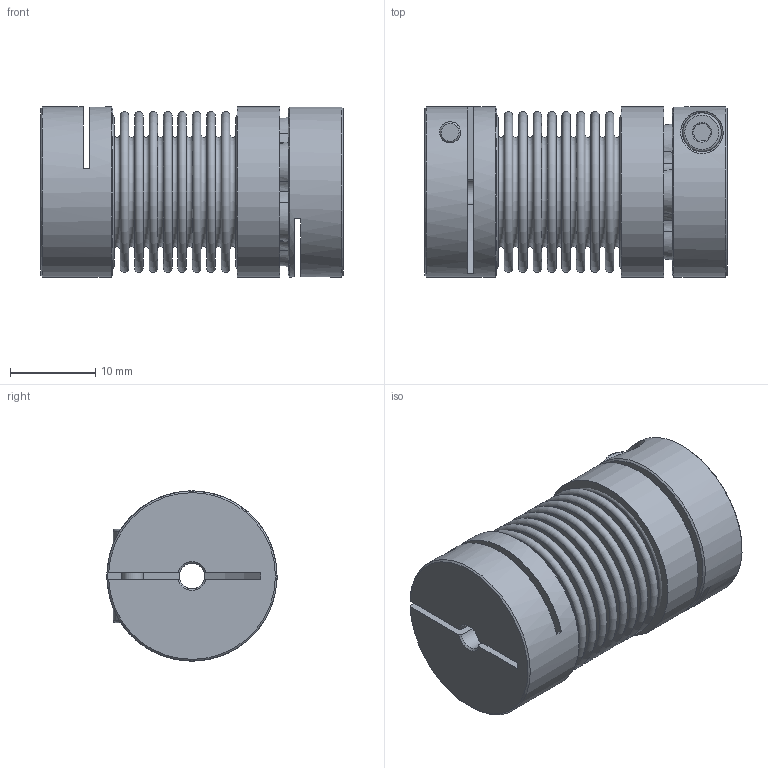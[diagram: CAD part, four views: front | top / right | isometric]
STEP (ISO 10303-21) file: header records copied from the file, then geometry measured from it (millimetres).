
FILE_DESCRIPTION( ( 'KBE1/14 - N7H8 - N14H7 - 98 Sh' ), '1' );
FILE_NAME( 'K:/Konstruktion/Fertigungszeichnungen/Metallbalgkupplung/KB2P/15/KB2P-15-35.stp', '14.12.2015', ( 'KBK-Antriebstechnik' ), ( 'KBK-Antriebstechnik' ), 'PSStep 16.0.42', 'Solid Edge St6', ' ' );
FILE_SCHEMA( ( 'AUTOMOTIVE_DESIGN { 1 0 10303 214 1 1 1 1 }' ) );
Length unit declared in the file: millimetre
Products named in the file (6): Assem1; Stecknabe KB2P-15; KN15_Standard_2; BL15_Standard_0; ISO EN DIN 4762 M2,5x8; Balgaufnahme KB2P-15 für Step
Assembly tree (6 placements, depth 2):
  Assem1
    Stecknabe KB2P-15
    KN15_Standard_2
    BL15_Standard_0
    ISO EN DIN 4762 M2,5x8  x2
    Balgaufnahme KB2P-15 für Step
Bounding box: 35.6 x 20 x 20 mm (x, y, z)
Volume: 6396.2 mm3; surface area: 11310.9 mm2
Topology: 6 solids, 6 shells, 213 faces, 434 edges, 278 vertices
Faces by surface type: plane 83, cone 59, torus 43, cylinder 27, bspline 1
Full cylindrical faces by diameter (mm): 2.013 x1, 2.1 x2, 2.5 x5, 2.8 x2, 3 x2, 4.5 x2, 5 x1, 18 x2, 18.3 x2, 20 x3
Entity records: 6898 total; most frequent: CARTESIAN_POINT 1334, DIRECTION 901, ORIENTED_EDGE 642, AXIS2_PLACEMENT_3D 415, EDGE_CURVE 321, EDGE_LOOP 307, VERTEX_POINT 262, FACE_OUTER_BOUND 246
